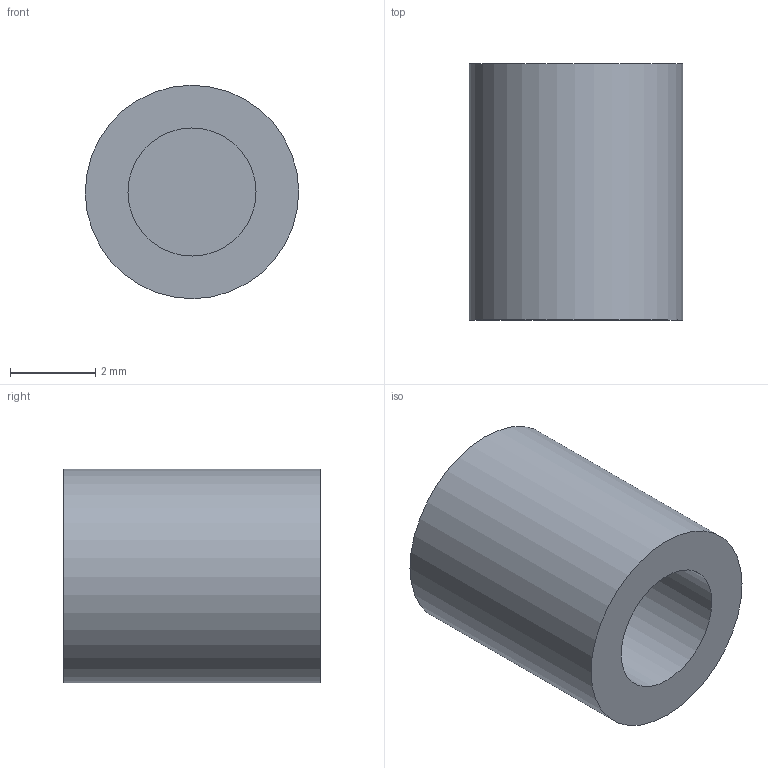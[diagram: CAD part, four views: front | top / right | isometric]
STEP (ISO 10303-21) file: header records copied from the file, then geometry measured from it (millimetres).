
FILE_DESCRIPTION(/* description */ (''),/* implementation_level */ '2;1');
FILE_NAME(/* name */ '',/* time_stamp */ '2025-10-06T16:29:57+08:00',/* author */ (''),/* organization */ (''),/* preprocessor_version */ 'ST-DEVELOPER v20.1',/* originating_system */ 'Autodesk Translation Framework v14.17.0.0',/* authorisation */ '');
FILE_SCHEMA (('AUTOMOTIVE_DESIGN { 1 0 10303 214 3 1 1 }'));
Length unit declared in the file: millimetre
Products named in the file (1): 探针连接器
Bounding box: 5 x 6 x 5 mm (x, y, z)
Volume: 82.5 mm3; surface area: 180.6 mm2
Topology: 1 solids, 1 shells, 5 faces, 6 edges, 4 vertices
Faces by surface type: plane 3, cylinder 2
Full cylindrical faces by diameter (mm): 3 x1, 5 x1
Entity records: 137 total; most frequent: DIRECTION 22, CARTESIAN_POINT 16, ORIENTED_EDGE 12, AXIS2_PLACEMENT_3D 10, EDGE_LOOP 6, EDGE_CURVE 6, FACE_OUTER_BOUND 5, ADVANCED_FACE 5
